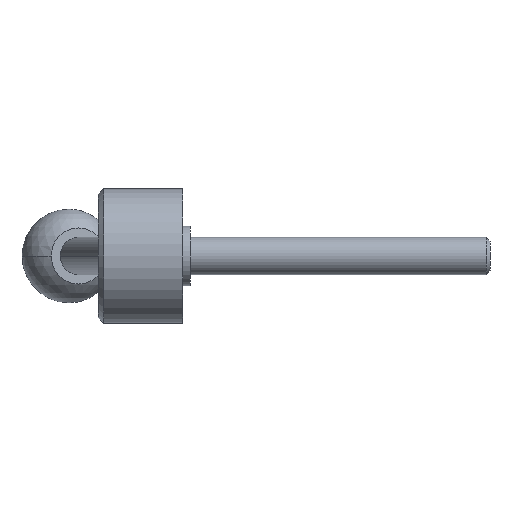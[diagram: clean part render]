
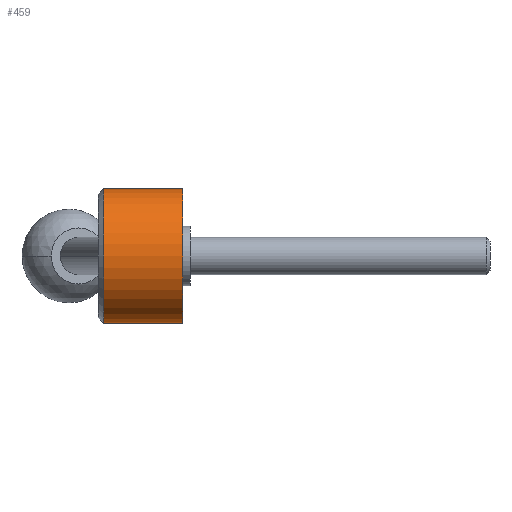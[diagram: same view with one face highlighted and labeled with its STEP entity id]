
A CAD part, left-side view. The second image highlights one B-rep face of the part: STEP entity #459.
In plain terms, the highlighted cylindrical face has radius 18 mm (diameter 36 mm), a partial arc.
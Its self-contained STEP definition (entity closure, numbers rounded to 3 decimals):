
#8 = CARTESIAN_POINT ( 'NONE',  ( 0., 0., 0. ) ) ;
#35 = CARTESIAN_POINT ( 'NONE',  ( 0., 21.1, -18. ) ) ;
#40 = EDGE_CURVE ( 'NONE', #826, #502, #666, .T. ) ;
#79 = FACE_OUTER_BOUND ( 'NONE', #90, .T. ) ;
#90 = EDGE_LOOP ( 'NONE', ( #434, #228, #351, #224 ) ) ;
#104 = DIRECTION ( 'NONE',  ( 0., -1., 0. ) ) ;
#121 = DIRECTION ( 'NONE',  ( 0., 0., 1. ) ) ;
#144 = CIRCLE ( 'NONE', #373, 18. ) ;
#148 = CARTESIAN_POINT ( 'NONE',  ( 0., 0., -18. ) ) ;
#224 = ORIENTED_EDGE ( 'NONE', *, *, #784, .F. ) ;
#228 = ORIENTED_EDGE ( 'NONE', *, *, #822, .T. ) ;
#258 = CARTESIAN_POINT ( 'NONE',  ( 0., 0., 18. ) ) ;
#263 = CARTESIAN_POINT ( 'NONE',  ( 0., 21.1, 0. ) ) ;
#287 = DIRECTION ( 'NONE',  ( 0., -1., 0. ) ) ;
#301 = VERTEX_POINT ( 'NONE', #35 ) ;
#309 = CARTESIAN_POINT ( 'NONE',  ( 0., 0., 18. ) ) ;
#348 = CYLINDRICAL_SURFACE ( 'NONE', #768, 18. ) ;
#349 = CARTESIAN_POINT ( 'NONE',  ( 0., 0., -18. ) ) ;
#351 = ORIENTED_EDGE ( 'NONE', *, *, #622, .T. ) ;
#373 = AXIS2_PLACEMENT_3D ( 'NONE', #709, #104, #702 ) ;
#389 = DIRECTION ( 'NONE',  ( 0., -1., 0. ) ) ;
#395 = VECTOR ( 'NONE', #389, 1000. ) ;
#417 = VECTOR ( 'NONE', #618, 1000. ) ;
#434 = ORIENTED_EDGE ( 'NONE', *, *, #40, .F. ) ;
#459 = ADVANCED_FACE ( 'NONE', ( #79 ), #348, .T. ) ;
#464 = CARTESIAN_POINT ( 'NONE',  ( 0., 21.1, 18. ) ) ;
#502 = VERTEX_POINT ( 'NONE', #309 ) ;
#516 = CIRCLE ( 'NONE', #872, 18. ) ;
#618 = DIRECTION ( 'NONE',  ( 0., -1., 0. ) ) ;
#622 = EDGE_CURVE ( 'NONE', #301, #636, #818, .T. ) ;
#636 = VERTEX_POINT ( 'NONE', #349 ) ;
#666 = LINE ( 'NONE', #258, #395 ) ;
#702 = DIRECTION ( 'NONE',  ( 0., 0., -1. ) ) ;
#709 = CARTESIAN_POINT ( 'NONE',  ( 0., 0., 0. ) ) ;
#721 = DIRECTION ( 'NONE',  ( 0., -1., 0. ) ) ;
#768 = AXIS2_PLACEMENT_3D ( 'NONE', #8, #287, #815 ) ;
#784 = EDGE_CURVE ( 'NONE', #502, #636, #144, .T. ) ;
#815 = DIRECTION ( 'NONE',  ( 0., 0., -1. ) ) ;
#818 = LINE ( 'NONE', #148, #417 ) ;
#822 = EDGE_CURVE ( 'NONE', #826, #301, #516, .T. ) ;
#826 = VERTEX_POINT ( 'NONE', #464 ) ;
#872 = AXIS2_PLACEMENT_3D ( 'NONE', #263, #721, #121 ) ;
